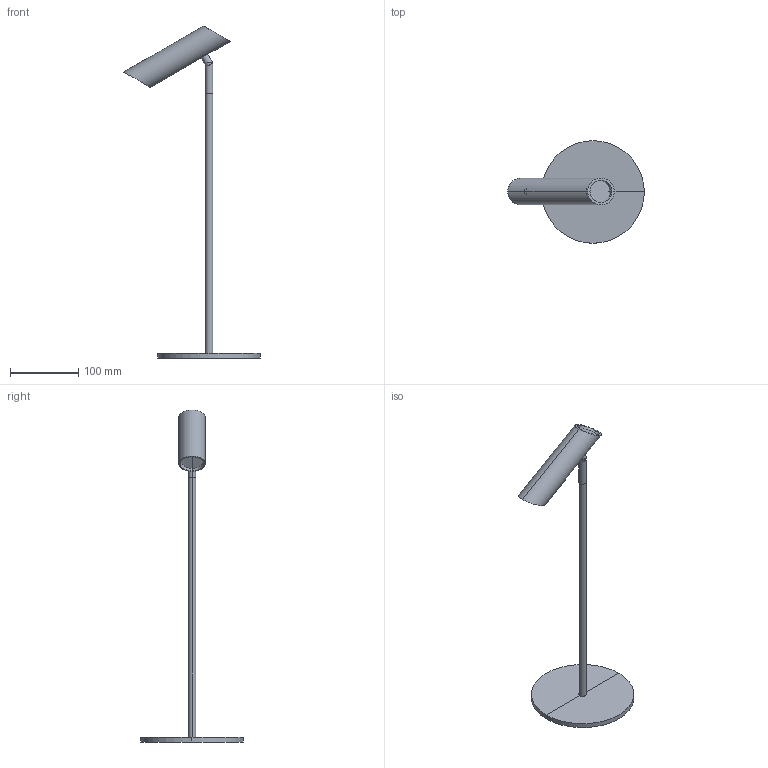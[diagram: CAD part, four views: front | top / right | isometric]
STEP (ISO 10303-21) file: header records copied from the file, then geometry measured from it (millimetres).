
FILE_DESCRIPTION(/* description */ (''),/* implementation_level */ '2;1');
FILE_NAME(/* name */ 'leo_table_lamp_3d.step',/* time_stamp */ '2024-12-10T08:33:20+01:00',/* author */ ('RenataManzini'),/* organization */ (''),/* preprocessor_version */ 'ST-DEVELOPER v20',/* originating_system */ 'AutoCAD Mechanical',/* authorisation */ '');
FILE_SCHEMA (('AUTOMOTIVE_DESIGN { 1 0 10303 214 3 1 1 }'));
Length unit declared in the file: millimetre
Products named in the file (1): Product
Bounding box: 199.8 x 150 x 485.48 mm (x, y, z)
Volume: 294813.7 mm3; surface area: 86521.3 mm2
Topology: 6 solids, 6 shells, 51 faces, 89 edges, 54 vertices
Faces by surface type: plane 29, cylinder 18, bspline 4
Entity records: 1481 total; most frequent: CARTESIAN_POINT 487, DIRECTION 209, ORIENTED_EDGE 170, EDGE_CURVE 85, AXIS2_PLACEMENT_3D 84, EDGE_LOOP 53, FACE_OUTER_BOUND 51, ADVANCED_FACE 51
